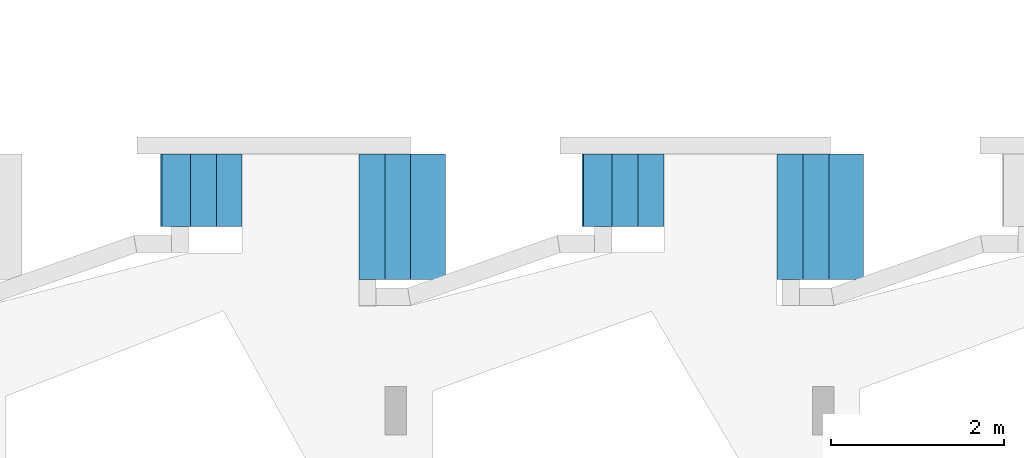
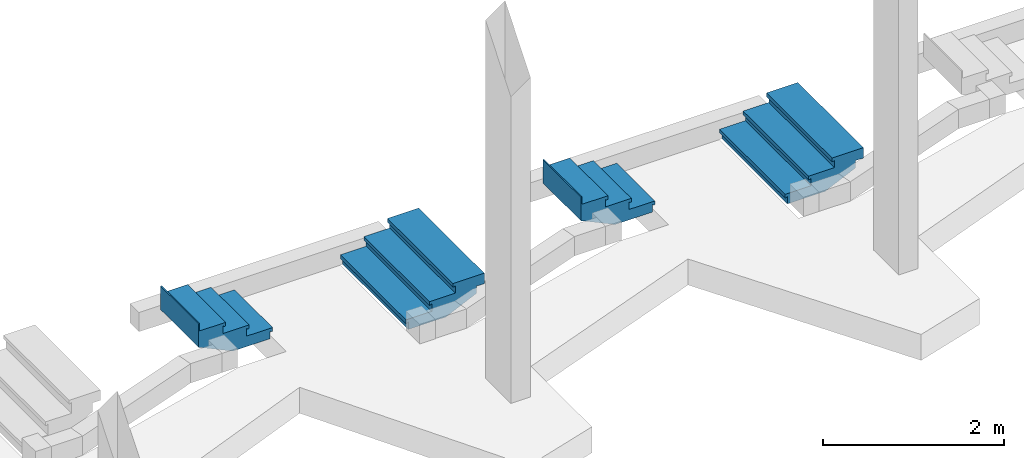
# One storey, part 6 of 8: 4 stair flights, 4 elements without a shape of their own.
"""IFC4 building model written with IfcOpenShell, lengths in metres."""

from ifc_helpers import new_model, entity, si_unit, converted_unit, derived_unit, direction, frame, origin, place, context, subcontext, project, spatial, polygons, material, constituent, constituent_set, type_object, element, aggregate, save


model = new_model("IFC4")

# Units and contexts
model_context = context("Model", 3, precision=1e-05, world=origin(), true_north=direction((6.123031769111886e-17, 1.0)))
body_context = subcontext(model_context, "Body", "Model", "MODEL_VIEW")
ifc_project = project(units=[si_unit("LENGTHUNIT", "METRE"), si_unit("AREAUNIT", "SQUARE_METRE"), si_unit("VOLUMEUNIT", "CUBIC_METRE"), converted_unit("PLANEANGLEUNIT", "DEGREE", entity("IfcRatioMeasure", 0.017453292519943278), si_unit("PLANEANGLEUNIT", "RADIAN"), dimensions=[0, 0, 0, 0, 0, 0, 0]), si_unit("MASSUNIT", "GRAM", prefix="KILO"), derived_unit("MASSDENSITYUNIT", [(si_unit("MASSUNIT", "GRAM", prefix="KILO"), 1), (si_unit("LENGTHUNIT", "METRE"), -3)]), derived_unit("MOMENTOFINERTIAUNIT", [(si_unit("LENGTHUNIT", "METRE"), 4)]), si_unit("TIMEUNIT", "SECOND"), si_unit("FREQUENCYUNIT", "HERTZ"), si_unit("THERMODYNAMICTEMPERATUREUNIT", "DEGREE_CELSIUS"), derived_unit("THERMALTRANSMITTANCEUNIT", [(si_unit("MASSUNIT", "GRAM", prefix="KILO"), 1), (si_unit("THERMODYNAMICTEMPERATUREUNIT", "KELVIN"), -1), (si_unit("TIMEUNIT", "SECOND"), -3)]), derived_unit("VOLUMETRICFLOWRATEUNIT", [(si_unit("LENGTHUNIT", "METRE"), 3), (si_unit("TIMEUNIT", "SECOND"), -1)]), derived_unit("MASSFLOWRATEUNIT", [(si_unit("MASSUNIT", "GRAM", prefix="KILO"), 1), (si_unit("TIMEUNIT", "SECOND"), -1)]), derived_unit("ROTATIONALFREQUENCYUNIT", [(si_unit("TIMEUNIT", "SECOND"), -1)]), si_unit("ELECTRICCURRENTUNIT", "AMPERE"), si_unit("ELECTRICVOLTAGEUNIT", "VOLT"), si_unit("POWERUNIT", "WATT"), si_unit("FORCEUNIT", "NEWTON", prefix="KILO"), si_unit("ILLUMINANCEUNIT", "LUX"), si_unit("LUMINOUSFLUXUNIT", "LUMEN"), si_unit("LUMINOUSINTENSITYUNIT", "CANDELA"), derived_unit("USERDEFINED", [(si_unit("MASSUNIT", "GRAM", prefix="KILO"), -1), (si_unit("LENGTHUNIT", "METRE"), -2), (si_unit("TIMEUNIT", "SECOND"), 3), (si_unit("LUMINOUSFLUXUNIT", "LUMEN"), 1)]), derived_unit("SOUNDPOWERUNIT", [(si_unit("MASSUNIT", "GRAM", prefix="KILO"), 1), (si_unit("LENGTHUNIT", "METRE"), 2), (si_unit("TIMEUNIT", "SECOND"), -3)]), derived_unit("SOUNDPRESSUREUNIT", [(si_unit("MASSUNIT", "GRAM", prefix="KILO"), 1), (si_unit("LENGTHUNIT", "METRE"), -1), (si_unit("TIMEUNIT", "SECOND"), -2)]), derived_unit("LINEARVELOCITYUNIT", [(si_unit("LENGTHUNIT", "METRE"), 1), (si_unit("TIMEUNIT", "SECOND"), -1)]), si_unit("PRESSUREUNIT", "PASCAL"), derived_unit("USERDEFINED", [(si_unit("LENGTHUNIT", "METRE"), -2), (si_unit("MASSUNIT", "GRAM", prefix="KILO"), 1), (si_unit("TIMEUNIT", "SECOND"), -2)]), derived_unit("LINEARFORCEUNIT", [(si_unit("MASSUNIT", "GRAM", prefix="KILO"), 1), (si_unit("LENGTHUNIT", "METRE"), 1), (si_unit("TIMEUNIT", "SECOND"), -2), (si_unit("LENGTHUNIT", "METRE"), -1)]), derived_unit("PLANARFORCEUNIT", [(si_unit("MASSUNIT", "GRAM", prefix="KILO"), 1), (si_unit("LENGTHUNIT", "METRE"), 1), (si_unit("TIMEUNIT", "SECOND"), -2), (si_unit("LENGTHUNIT", "METRE"), -2)])], contexts=[model_context])

# Site, building, storey
site_placement = place(None, origin())
site = spatial("IfcSite", under=ifc_project, at=site_placement, Name="Superficie", CompositionType="ELEMENT")
building_placement = place(site_placement, origin())
building = spatial("IfcBuilding", under=site, at=building_placement, CompositionType="ELEMENT")
storey_placement = place(building_placement, frame((0.0, 0.0, -0.5599999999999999)))
storey = spatial("IfcBuildingStorey", under=building, at=storey_placement, Name="Nivel -1", CompositionType="ELEMENT", Elevation=-0.5599999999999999)

# Stair, stair flight
stair_type_1 = type_object("IfcStairType", Name="Escalera prefabricada:Escalera prefabricada", PredefinedType="STRAIGHT_RUN_STAIR")
stair_1_placement = place(storey_placement, origin())
stair_1 = element("IfcStair", 1, at=stair_1_placement, inside=storey, type_object=stair_type_1, Name="Escalera prefabricada:Escalera", ObjectType="Escalera prefabricada:Escalera prefabricada", PredefinedType="STRAIGHT_RUN_STAIR")
ifc_material_1 = material(Name="Cerámica blanca", Category="Cerámica")
ifc_constituent_1 = constituent(ifc_material_1, Name="Cerámica blanca", Category="Cerámica")
ifc_material_2 = material(Name="Hormigón", Category="Hormigón")
ifc_constituent_2 = constituent(ifc_material_2, Name="Hormigón", Category="Hormigón")
ifc_constituent_set_1 = constituent_set(constituents=[ifc_constituent_1, ifc_constituent_2], Name="MaterialConstituentSet")
stair_flight_type_1 = type_object("IfcStairFlightType", Name="Tramo monolítico:Huella 40 mm Mamperlán 30 mm Contrahuella 15 mm", PredefinedType="STRAIGHT")
stair_flight_1_placement = place(stair_1_placement, frame((-6.508314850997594, -7.28417071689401, 0.0)))
stair_flight_1 = element("IfcStairFlight", 2, at=stair_flight_1_placement, type_object=stair_flight_type_1, material=ifc_constituent_set_1, Name="Escalera prefabricada:Escalera:175658 Run 1", ObjectType="Tramo monolítico:Huella 40 mm Mamperlán 30 mm Contrahuella 15 mm", PredefinedType="STRAIGHT", context=body_context, shape_type="Tessellation", body=[
    polygons([(0.9450000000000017, 0.8399999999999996, 0.08999999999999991), (0.9450000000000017, 0.8399999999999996, 0.13999999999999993), (0.9450000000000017, 0.0, 0.13999999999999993), (0.9450000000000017, 0.0, 0.08999999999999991), (0.9220000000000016, 0.8399999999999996, 0.08999999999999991), (0.9220000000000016, 0.0, 0.08999999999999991), (0.9220000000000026, 0.8399999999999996, 0.1), (0.9220000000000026, 0.0, 0.1), (0.6000000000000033, 0.8400000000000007, 0.13999999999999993), (0.6000000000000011, 1.0828671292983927e-15, 0.13999999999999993), (0.6000000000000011, 1.0828671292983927e-15, 0.1), (0.6000000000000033, 0.8400000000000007, 0.1)], [[[1, 2, 3, 4]], [[5, 1, 4, 6]], [[7, 5, 6, 8]], [[3, 2, 9, 10]], [[11, 12, 7, 8]], [[3, 10, 11, 8, 6, 4]], [[9, 2, 1, 5, 7, 12]], [[10, 9, 12, 11]]], closed=True),
    polygons([(0.915000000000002, 0.8399999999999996, 0.1), (0.915000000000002, 0.8399999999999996, 0.0), (0.9000000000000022, 0.8399999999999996, 0.0), (0.9000000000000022, 0.8399999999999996, 0.1), (0.915000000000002, 0.0, 0.1), (0.9000000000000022, 0.0, 0.1), (0.9000000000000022, 0.0, 0.0), (0.915000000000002, 0.0, 0.0)], [[[1, 2, 3, 4]], [[5, 6, 7, 8]], [[2, 1, 5, 8]], [[3, 2, 8, 7]], [[4, 3, 7, 6]], [[1, 4, 6, 5]]], closed=True),
    polygons([(0.6150000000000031, 0.8400000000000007, 0.24), (0.6150000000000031, 0.8400000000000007, 0.13999999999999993), (0.6000000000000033, 0.8400000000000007, 0.13999999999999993), (0.6000000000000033, 0.8400000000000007, 0.24), (0.6149999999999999, 1.0828671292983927e-15, 0.24), (0.6000000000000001, 1.0828671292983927e-15, 0.24), (0.6000000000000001, 1.0828671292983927e-15, 0.13999999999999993), (0.6149999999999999, 1.0828671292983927e-15, 0.13999999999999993)], [[[1, 2, 3, 4]], [[5, 6, 7, 8]], [[2, 1, 5, 8]], [[3, 2, 8, 7]], [[4, 3, 7, 6]], [[1, 4, 6, 5]]], closed=True),
    polygons([(0.6449999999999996, 1.0828671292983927e-15, 0.27999999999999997), (0.6450000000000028, 0.8400000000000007, 0.27999999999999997), (0.30000000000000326, 0.8400000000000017, 0.28), (0.3000000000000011, 1.0828671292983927e-15, 0.28), (0.3000000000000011, 1.0828671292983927e-15, 0.24), (0.30000000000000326, 0.8400000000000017, 0.24), (0.6220000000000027, 0.8400000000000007, 0.24), (0.6220000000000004, 1.0828671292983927e-15, 0.24), (0.6219999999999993, 1.0828671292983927e-15, 0.22999999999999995), (0.6449999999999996, 1.0828671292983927e-15, 0.22999999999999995), (0.6450000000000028, 0.8400000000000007, 0.22999999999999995), (0.6220000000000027, 0.8400000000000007, 0.22999999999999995)], [[[1, 2, 3, 4]], [[5, 6, 7, 8]], [[1, 4, 5, 8, 9, 10]], [[3, 2, 11, 12, 7, 6]], [[4, 3, 6, 5]], [[11, 2, 1, 10]], [[12, 11, 10, 9]], [[7, 12, 9, 8]]], closed=True),
    polygons([(0.3150000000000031, 0.8400000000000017, 0.37999999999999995), (0.3150000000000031, 0.8400000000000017, 0.27999999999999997), (0.30000000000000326, 0.8400000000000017, 0.27999999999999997), (0.30000000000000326, 0.8400000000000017, 0.37999999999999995), (0.31499999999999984, 1.0828671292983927e-15, 0.37999999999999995), (0.30000000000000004, 1.0828671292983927e-15, 0.37999999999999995), (0.30000000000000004, 1.0828671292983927e-15, 0.27999999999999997), (0.31499999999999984, 1.0828671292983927e-15, 0.27999999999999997)], [[[1, 2, 3, 4]], [[5, 6, 7, 8]], [[2, 1, 5, 8]], [[3, 2, 8, 7]], [[4, 3, 7, 6]], [[1, 4, 6, 5]]], closed=True),
    polygons([(0.015000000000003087, 0.8400000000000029, 0.5199999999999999), (0.015000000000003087, 0.8400000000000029, 0.41999999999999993), (3.2486013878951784e-15, 0.8400000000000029, 0.41999999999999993), (3.2486013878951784e-15, 0.8400000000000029, 0.5199999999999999), (0.014999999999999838, 3.2486013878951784e-15, 0.5199999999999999), (0.0, 3.2486013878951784e-15, 0.5199999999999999), (0.0, 3.2486013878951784e-15, 0.41999999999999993), (0.014999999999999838, 3.2486013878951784e-15, 0.41999999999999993)], [[[1, 2, 3, 4]], [[5, 6, 7, 8]], [[2, 1, 5, 8]], [[3, 2, 8, 7]], [[4, 3, 7, 6]], [[1, 4, 6, 5]]], closed=True),
    polygons([(0.34499999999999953, 1.0828671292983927e-15, 0.41999999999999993), (0.3450000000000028, 0.8400000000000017, 0.41999999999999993), (3.2486013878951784e-15, 0.8400000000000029, 0.42000000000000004), (1.0828671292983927e-15, 3.2486013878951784e-15, 0.42000000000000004), (1.0828671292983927e-15, 3.2486013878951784e-15, 0.37999999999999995), (3.2486013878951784e-15, 0.8400000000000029, 0.37999999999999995), (0.32200000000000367, 0.8400000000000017, 0.37999999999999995), (0.32200000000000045, 1.0828671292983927e-15, 0.37999999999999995), (0.32199999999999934, 1.0828671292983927e-15, 0.36999999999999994), (0.34499999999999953, 1.0828671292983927e-15, 0.36999999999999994), (0.3450000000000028, 0.8400000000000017, 0.36999999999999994), (0.3220000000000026, 0.8400000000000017, 0.36999999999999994)], [[[1, 2, 3, 4]], [[5, 6, 7, 8]], [[1, 4, 5, 8, 9, 10]], [[3, 2, 11, 12, 7, 6]], [[4, 3, 6, 5]], [[11, 2, 1, 10]], [[12, 11, 10, 9]], [[7, 12, 9, 8]]], closed=True),
    polygons([(0.6000000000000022, 1.0828671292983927e-15, 0.1), (0.9000000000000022, 0.0, 0.1), (0.9000000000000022, 0.8399999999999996, 0.1), (0.6000000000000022, 0.8400000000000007, 0.1), (0.6000000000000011, 1.0828671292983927e-15, 0.0), (0.9000000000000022, 0.0, 0.0), (0.9000000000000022, 0.8399999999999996, 0.0), (0.6000000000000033, 0.8400000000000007, 0.0), (0.3000000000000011, 2.1657342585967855e-15, 0.24), (0.6000000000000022, 1.0828671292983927e-15, 0.24), (0.6000000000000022, 0.8400000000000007, 0.24), (0.30000000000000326, 0.8400000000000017, 0.24), (0.3000000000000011, 1.0828671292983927e-15, 0.06343524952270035), (0.4359326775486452, 1.0828671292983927e-15, 0.0), (0.43593267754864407, 0.8400000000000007, 0.0), (0.30000000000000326, 0.8400000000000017, 0.06343524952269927), (0.0, 3.2486013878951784e-15, 0.20343524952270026), (3.2486013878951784e-15, 0.8400000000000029, 0.20343524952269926), (1.0828671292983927e-15, 3.2486013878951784e-15, 0.37999999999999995), (0.3000000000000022, 1.0828671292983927e-15, 0.37999999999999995), (0.3000000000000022, 0.8400000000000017, 0.37999999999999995), (3.2486013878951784e-15, 0.8400000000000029, 0.37999999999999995)], [[[1, 2, 3, 4]], [[2, 1, 5, 6]], [[3, 2, 6, 7]], [[4, 3, 7, 8]], [[9, 10, 11, 12]], [[5, 1, 10, 9, 13, 14]], [[1, 4, 11, 10]], [[4, 8, 15, 16, 12, 11]], [[6, 5, 14, 15, 8, 7]], [[15, 14, 13, 17, 18, 16]], [[19, 20, 21, 22]], [[20, 19, 17, 13, 9]], [[9, 12, 21, 20]], [[22, 21, 12, 16, 18]], [[19, 22, 18, 17]]], closed=True),
])
aggregate(stair_1, [stair_flight_1])

stair_type_2 = type_object("IfcStairType", Name="Escalera prefabricada:Escalera prefabricada", PredefinedType="STRAIGHT_RUN_STAIR")
stair_2_placement = place(storey_placement, origin())
stair_2 = element("IfcStair", 3, at=stair_2_placement, inside=storey, type_object=stair_type_2, Name="Escalera prefabricada:Escalera", ObjectType="Escalera prefabricada:Escalera prefabricada", PredefinedType="STRAIGHT_RUN_STAIR")
ifc_constituent_3 = constituent(ifc_material_1, Name="Cerámica blanca", Category="Cerámica")
ifc_constituent_4 = constituent(ifc_material_2, Name="Hormigón", Category="Hormigón")
ifc_constituent_set_2 = constituent_set(constituents=[ifc_constituent_3, ifc_constituent_4], Name="MaterialConstituentSet")
stair_flight_type_2 = type_object("IfcStairFlightType", Name="Tramo monolítico:Huella 40 mm Mamperlán 30 mm Contrahuella 15 mm", PredefinedType="STRAIGHT")
stair_flight_2_placement = place(stair_2_placement, frame((-1.6284287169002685, -7.284170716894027, 0.0)))
stair_flight_2 = element("IfcStairFlight", 4, at=stair_flight_2_placement, type_object=stair_flight_type_2, material=ifc_constituent_set_2, Name="Escalera prefabricada:Escalera:175675 Run 1", ObjectType="Tramo monolítico:Huella 40 mm Mamperlán 30 mm Contrahuella 15 mm", PredefinedType="STRAIGHT", context=body_context, shape_type="Tessellation", body=[
    polygons([(0.9450000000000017, 0.8400000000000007, 0.08999999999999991), (0.9450000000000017, 0.8400000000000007, 0.13999999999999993), (0.9450000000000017, 1.0828671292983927e-15, 0.13999999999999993), (0.9450000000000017, 1.0828671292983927e-15, 0.08999999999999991), (0.9220000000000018, 0.8400000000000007, 0.08999999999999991), (0.9220000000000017, 1.0828671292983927e-15, 0.08999999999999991), (0.9220000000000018, 0.8400000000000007, 0.1), (0.9220000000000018, 1.0828671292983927e-15, 0.1), (0.6000000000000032, 0.8400000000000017, 0.13999999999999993), (0.6000000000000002, 1.0828671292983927e-15, 0.13999999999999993), (0.6000000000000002, 1.0828671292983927e-15, 0.1), (0.6000000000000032, 0.8400000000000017, 0.1)], [[[1, 2, 3, 4]], [[5, 1, 4, 6]], [[7, 5, 6, 8]], [[3, 2, 9, 10]], [[11, 12, 7, 8]], [[3, 10, 11, 8, 6, 4]], [[9, 2, 1, 5, 7, 12]], [[10, 9, 12, 11]]], closed=True),
    polygons([(0.9150000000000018, 0.8400000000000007, 0.1), (0.9150000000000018, 0.8400000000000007, 0.0), (0.9000000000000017, 0.8400000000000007, 0.0), (0.9000000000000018, 0.8400000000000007, 0.1), (0.9150000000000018, 1.0828671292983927e-15, 0.1), (0.9000000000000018, 1.0828671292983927e-15, 0.1), (0.9000000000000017, 1.0828671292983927e-15, 0.0), (0.9150000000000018, 1.0828671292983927e-15, 0.0)], [[[1, 2, 3, 4]], [[5, 6, 7, 8]], [[2, 1, 5, 8]], [[3, 2, 8, 7]], [[4, 3, 7, 6]], [[1, 4, 6, 5]]], closed=True),
    polygons([(0.6150000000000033, 0.8400000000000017, 0.24), (0.615000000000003, 0.8400000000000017, 0.13999999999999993), (0.6000000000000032, 0.8400000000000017, 0.13999999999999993), (0.6000000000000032, 0.8400000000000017, 0.24), (0.6150000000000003, 1.0828671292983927e-15, 0.24), (0.6000000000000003, 1.0828671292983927e-15, 0.24), (0.6000000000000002, 1.0828671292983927e-15, 0.13999999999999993), (0.6150000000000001, 1.0828671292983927e-15, 0.13999999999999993)], [[[1, 2, 3, 4]], [[5, 6, 7, 8]], [[2, 1, 5, 8]], [[3, 2, 8, 7]], [[4, 3, 7, 6]], [[1, 4, 6, 5]]], closed=True),
    polygons([(0.6450000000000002, 1.0828671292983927e-15, 0.27999999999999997), (0.6450000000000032, 0.8400000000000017, 0.27999999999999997), (0.30000000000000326, 0.8400000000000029, 0.28), (0.3000000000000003, 3.2486013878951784e-15, 0.28), (0.3000000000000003, 3.2486013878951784e-15, 0.24), (0.30000000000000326, 0.8400000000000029, 0.24), (0.6220000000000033, 0.8400000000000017, 0.24), (0.6220000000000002, 1.0828671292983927e-15, 0.24), (0.6220000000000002, 1.0828671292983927e-15, 0.22999999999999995), (0.6450000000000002, 1.0828671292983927e-15, 0.22999999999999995), (0.6450000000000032, 0.8400000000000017, 0.22999999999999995), (0.6220000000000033, 0.8400000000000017, 0.22999999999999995)], [[[1, 2, 3, 4]], [[5, 6, 7, 8]], [[1, 4, 5, 8, 9, 10]], [[3, 2, 11, 12, 7, 6]], [[4, 3, 6, 5]], [[11, 2, 1, 10]], [[12, 11, 10, 9]], [[7, 12, 9, 8]]], closed=True),
    polygons([(0.3150000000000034, 0.8400000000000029, 0.37999999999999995), (0.3150000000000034, 0.8400000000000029, 0.27999999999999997), (0.30000000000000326, 0.8400000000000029, 0.27999999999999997), (0.30000000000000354, 0.8400000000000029, 0.37999999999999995), (0.3150000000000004, 3.2486013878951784e-15, 0.37999999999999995), (0.3000000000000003, 3.2486013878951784e-15, 0.37999999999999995), (0.3000000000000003, 3.2486013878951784e-15, 0.27999999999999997), (0.3150000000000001, 3.2486013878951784e-15, 0.27999999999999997)], [[[1, 2, 3, 4]], [[5, 6, 7, 8]], [[2, 1, 5, 8]], [[3, 2, 8, 7]], [[4, 3, 7, 6]], [[1, 4, 6, 5]]], closed=True),
    polygons([(0.015000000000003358, 0.840000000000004, 0.5199999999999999), (0.015000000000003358, 0.840000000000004, 0.41999999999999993), (3.2486013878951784e-15, 0.840000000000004, 0.41999999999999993), (3.2486013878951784e-15, 0.840000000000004, 0.5199999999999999), (0.01500000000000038, 4.331468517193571e-15, 0.5199999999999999), (2.707167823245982e-16, 4.331468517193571e-15, 0.5199999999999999), (2.707167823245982e-16, 4.331468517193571e-15, 0.41999999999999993), (0.01500000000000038, 4.331468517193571e-15, 0.41999999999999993)], [[[1, 2, 3, 4]], [[5, 6, 7, 8]], [[2, 1, 5, 8]], [[3, 2, 8, 7]], [[4, 3, 7, 6]], [[1, 4, 6, 5]]], closed=True),
    polygons([(0.34500000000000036, 3.2486013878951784e-15, 0.41999999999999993), (0.3450000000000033, 0.8400000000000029, 0.41999999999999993), (3.2486013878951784e-15, 0.840000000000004, 0.42000000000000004), (2.707167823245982e-16, 4.331468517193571e-15, 0.42000000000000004), (2.707167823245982e-16, 4.331468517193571e-15, 0.37999999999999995), (3.2486013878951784e-15, 0.840000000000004, 0.37999999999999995), (0.3220000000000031, 0.8400000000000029, 0.37999999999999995), (0.3220000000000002, 3.2486013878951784e-15, 0.37999999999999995), (0.3220000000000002, 3.2486013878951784e-15, 0.36999999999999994), (0.34500000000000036, 3.2486013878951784e-15, 0.36999999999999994), (0.3450000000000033, 0.8400000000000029, 0.36999999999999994), (0.3220000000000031, 0.8400000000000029, 0.36999999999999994)], [[[1, 2, 3, 4]], [[5, 6, 7, 8]], [[1, 4, 5, 8, 9, 10]], [[3, 2, 11, 12, 7, 6]], [[4, 3, 6, 5]], [[11, 2, 1, 10]], [[12, 11, 10, 9]], [[7, 12, 9, 8]]], closed=True),
    polygons([(0.600000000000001, 2.1657342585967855e-15, 0.1), (0.9000000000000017, 1.0828671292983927e-15, 0.1), (0.9000000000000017, 0.8400000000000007, 0.1), (0.6000000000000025, 0.8400000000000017, 0.1), (0.6000000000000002, 1.0828671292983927e-15, 0.0), (0.9000000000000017, 1.0828671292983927e-15, 0.0), (0.9000000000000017, 0.8400000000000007, 0.0), (0.6000000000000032, 0.8400000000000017, 0.0), (0.3000000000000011, 3.2486013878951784e-15, 0.24), (0.6000000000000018, 1.0828671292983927e-15, 0.24), (0.6000000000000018, 0.8400000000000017, 0.24), (0.3000000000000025, 0.8400000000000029, 0.24), (0.3000000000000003, 3.2486013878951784e-15, 0.06343524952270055), (0.43593267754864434, 3.2486013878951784e-15, 0.0), (0.43593267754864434, 0.8400000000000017, 0.0), (0.30000000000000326, 0.8400000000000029, 0.06343524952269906), (2.707167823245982e-16, 4.331468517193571e-15, 0.2034352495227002), (3.2486013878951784e-15, 0.840000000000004, 0.20343524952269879), (2.707167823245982e-16, 4.331468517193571e-15, 0.37999999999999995), (0.30000000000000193, 3.2486013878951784e-15, 0.37999999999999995), (0.30000000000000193, 0.8400000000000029, 0.37999999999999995), (3.2486013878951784e-15, 0.840000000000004, 0.37999999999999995)], [[[1, 2, 3, 4]], [[2, 1, 5, 6]], [[3, 2, 6, 7]], [[4, 3, 7, 8]], [[9, 10, 11, 12]], [[5, 1, 10, 9, 13, 14]], [[1, 4, 11, 10]], [[4, 8, 15, 16, 12, 11]], [[6, 5, 14, 15, 8, 7]], [[15, 14, 13, 17, 18, 16]], [[19, 20, 21, 22]], [[20, 19, 17, 13, 9]], [[9, 12, 21, 20]], [[22, 21, 12, 16, 18]], [[19, 22, 18, 17]]], closed=True),
])
aggregate(stair_2, [stair_flight_2])

stair_type_3 = type_object("IfcStairType", Name="Escalera prefabricada:Escalera prefabricada", PredefinedType="STRAIGHT_RUN_STAIR")
stair_3_placement = place(storey_placement, origin())
stair_3 = element("IfcStair", 5, at=stair_3_placement, inside=storey, type_object=stair_type_3, Name="Escalera prefabricada:Escalera", ObjectType="Escalera prefabricada:Escalera prefabricada", PredefinedType="STRAIGHT_RUN_STAIR")
ifc_constituent_5 = constituent(ifc_material_1, Name="Cerámica blanca", Category="Cerámica")
ifc_constituent_6 = constituent(ifc_material_2, Name="Hormigón", Category="Hormigón")
ifc_constituent_set_3 = constituent_set(constituents=[ifc_constituent_5, ifc_constituent_6], Name="MaterialConstituentSet")
stair_flight_type_3 = type_object("IfcStairFlightType", Name="Tramo monolítico:Huella 40 mm Mamperlán 30 mm Contrahuella 15 mm", PredefinedType="STRAIGHT")
stair_flight_3_placement = place(stair_3_placement, frame((-4.2132009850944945, -7.894170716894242, 0.0)))
stair_flight_3 = element("IfcStairFlight", 6, at=stair_flight_3_placement, type_object=stair_flight_type_3, material=ifc_constituent_set_3, Name="Escalera prefabricada:Escalera:176115 Run 1", ObjectType="Tramo monolítico:Huella 40 mm Mamperlán 30 mm Contrahuella 15 mm", PredefinedType="STRAIGHT", context=body_context, shape_type="Tessellation", body=[
    polygons([(0.0, 5.4143356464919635e-15, 0.08999999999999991), (0.0, 5.4143356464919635e-15, 0.13999999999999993), (0.0, 1.450000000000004, 0.13999999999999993), (0.0, 1.450000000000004, 0.08999999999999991), (0.022999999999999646, 5.4143356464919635e-15, 0.08999999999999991), (0.022999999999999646, 1.450000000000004, 0.08999999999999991), (0.022999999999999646, 5.4143356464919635e-15, 0.1), (0.022999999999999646, 1.450000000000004, 0.1), (0.34499999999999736, 3.2486013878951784e-15, 0.13999999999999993), (0.3450000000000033, 1.4500000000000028, 0.13999999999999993), (0.3450000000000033, 1.4500000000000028, 0.1), (0.34499999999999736, 3.2486013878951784e-15, 0.1)], [[[1, 2, 3, 4]], [[5, 1, 4, 6]], [[7, 5, 6, 8]], [[3, 2, 9, 10]], [[11, 12, 7, 8]], [[3, 10, 11, 8, 6, 4]], [[9, 2, 1, 5, 7, 12]], [[10, 9, 12, 11]]], closed=True),
    polygons([(0.029999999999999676, 5.4143356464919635e-15, 0.1), (0.029999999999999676, 5.4143356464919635e-15, 0.0), (0.04499999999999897, 5.4143356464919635e-15, 0.0), (0.04499999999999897, 5.4143356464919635e-15, 0.1), (0.029999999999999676, 1.450000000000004, 0.1), (0.04499999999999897, 1.450000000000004, 0.1), (0.04499999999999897, 1.450000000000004, 0.0), (0.029999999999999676, 1.450000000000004, 0.0)], [[[1, 2, 3, 4]], [[5, 6, 7, 8]], [[2, 1, 5, 8]], [[3, 2, 8, 7]], [[4, 3, 7, 6]], [[1, 4, 6, 5]]], closed=True),
    polygons([(0.329999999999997, 3.2486013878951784e-15, 0.24), (0.329999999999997, 3.2486013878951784e-15, 0.13999999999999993), (0.3449999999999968, 3.2486013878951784e-15, 0.13999999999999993), (0.3449999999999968, 3.2486013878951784e-15, 0.24), (0.3300000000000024, 1.4500000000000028, 0.24), (0.34500000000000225, 1.4500000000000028, 0.24), (0.34500000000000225, 1.4500000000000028, 0.13999999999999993), (0.3300000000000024, 1.4500000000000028, 0.13999999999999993)], [[[1, 2, 3, 4]], [[5, 6, 7, 8]], [[2, 1, 5, 8]], [[3, 2, 8, 7]], [[4, 3, 7, 6]], [[1, 4, 6, 5]]], closed=True),
    polygons([(0.3000000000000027, 1.4500000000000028, 0.27999999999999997), (0.2999999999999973, 3.2486013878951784e-15, 0.27999999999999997), (0.6449999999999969, 2.1657342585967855e-15, 0.28), (0.6450000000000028, 1.4500000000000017, 0.28), (0.6450000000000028, 1.4500000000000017, 0.24), (0.6449999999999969, 2.1657342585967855e-15, 0.24), (0.3229999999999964, 3.2486013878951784e-15, 0.24), (0.3230000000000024, 1.4500000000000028, 0.24), (0.3230000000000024, 1.4500000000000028, 0.22999999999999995), (0.3000000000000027, 1.4500000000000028, 0.22999999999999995), (0.2999999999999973, 3.2486013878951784e-15, 0.22999999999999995), (0.3229999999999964, 3.2486013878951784e-15, 0.22999999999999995)], [[[1, 2, 3, 4]], [[5, 6, 7, 8]], [[1, 4, 5, 8, 9, 10]], [[3, 2, 11, 12, 7, 6]], [[4, 3, 6, 5]], [[11, 2, 1, 10]], [[12, 11, 10, 9]], [[7, 12, 9, 8]]], closed=True),
    polygons([(0.629999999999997, 2.1657342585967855e-15, 0.37999999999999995), (0.629999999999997, 2.1657342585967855e-15, 0.27999999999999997), (0.6449999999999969, 2.1657342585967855e-15, 0.27999999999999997), (0.6449999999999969, 2.1657342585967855e-15, 0.37999999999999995), (0.6300000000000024, 1.4500000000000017, 0.37999999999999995), (0.6450000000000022, 1.4500000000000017, 0.37999999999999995), (0.6450000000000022, 1.4500000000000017, 0.27999999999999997), (0.6300000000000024, 1.4500000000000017, 0.27999999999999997)], [[[1, 2, 3, 4]], [[5, 6, 7, 8]], [[2, 1, 5, 8]], [[3, 2, 8, 7]], [[4, 3, 7, 6]], [[1, 4, 6, 5]]], closed=True),
    polygons([(0.6000000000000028, 1.4500000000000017, 0.41999999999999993), (0.5999999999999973, 2.1657342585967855e-15, 0.41999999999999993), (0.9999999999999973, 1.0828671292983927e-15, 0.42000000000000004), (1.0000000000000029, 1.4500000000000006, 0.42000000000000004), (1.0000000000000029, 1.4500000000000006, 0.37999999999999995), (0.9999999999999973, 1.0828671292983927e-15, 0.37999999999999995), (0.622999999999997, 2.1657342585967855e-15, 0.37999999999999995), (0.6230000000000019, 1.4500000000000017, 0.37999999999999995), (0.6230000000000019, 1.4500000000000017, 0.36999999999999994), (0.6000000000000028, 1.4500000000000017, 0.36999999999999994), (0.5999999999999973, 2.1657342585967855e-15, 0.36999999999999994), (0.622999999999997, 2.1657342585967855e-15, 0.36999999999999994)], [[[1, 2, 3, 4]], [[5, 6, 7, 8]], [[1, 4, 5, 8, 9, 10]], [[3, 2, 11, 12, 7, 6]], [[4, 3, 6, 5]], [[11, 2, 1, 10]], [[12, 11, 10, 9]], [[7, 12, 9, 8]]], closed=True),
    polygons([(0.34500000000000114, 1.4500000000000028, 0.1), (0.04500000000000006, 1.450000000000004, 0.1), (0.04500000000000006, 5.4143356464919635e-15, 0.1), (0.3449999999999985, 3.2486013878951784e-15, 0.1), (0.3450000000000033, 1.4500000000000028, 0.0), (0.04500000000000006, 1.450000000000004, 0.0), (0.04500000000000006, 5.4143356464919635e-15, 0.0), (0.34499999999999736, 3.2486013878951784e-15, 0.0), (0.5090673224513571, 1.4500000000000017, 0.0), (0.5090673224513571, 2.1657342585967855e-15, 0.0), (0.6450000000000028, 1.4500000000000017, 0.0634352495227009), (0.9000000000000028, 1.4500000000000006, 0.18243524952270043), (0.8999999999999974, 1.0828671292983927e-15, 0.18243524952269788), (0.6449999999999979, 2.1657342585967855e-15, 0.06343524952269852), (0.9999999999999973, 1.0828671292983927e-15, 0.2799999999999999), (0.8999999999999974, 1.0828671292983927e-15, 0.2799999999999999), (0.9000000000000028, 1.4500000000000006, 0.2799999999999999), (1.0000000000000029, 1.4500000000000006, 0.2799999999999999), (1.0000000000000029, 1.4500000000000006, 0.37999999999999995), (0.9999999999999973, 1.0828671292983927e-15, 0.37999999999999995), (0.6450000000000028, 1.4500000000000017, 0.24), (0.3450000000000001, 1.4500000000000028, 0.24), (0.3450000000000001, 3.2486013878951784e-15, 0.24), (0.6449999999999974, 2.1657342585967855e-15, 0.24), (0.6450000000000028, 1.4500000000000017, 0.37999999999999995), (0.6449999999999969, 2.1657342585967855e-15, 0.37999999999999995)], [[[1, 2, 3, 4]], [[2, 1, 5, 6]], [[3, 2, 6, 7]], [[4, 3, 7, 8]], [[6, 5, 9, 10, 8, 7]], [[10, 9, 11, 12, 13, 14]], [[15, 16, 17, 18]], [[15, 18, 19, 20]], [[21, 22, 23, 24]], [[5, 1, 22, 21, 11, 9]], [[1, 4, 23, 22]], [[4, 8, 10, 14, 24, 23]], [[25, 26, 20, 19]], [[25, 19, 18, 17, 12, 11, 21]], [[21, 24, 26, 25]], [[20, 26, 24, 14, 13, 16, 15]], [[13, 12, 17, 16]]], closed=True),
])
aggregate(stair_3, [stair_flight_3])

stair_type_4 = type_object("IfcStairType", Name="Escalera prefabricada:Escalera prefabricada", PredefinedType="STRAIGHT_RUN_STAIR")
stair_4_placement = place(storey_placement, origin())
stair_4 = element("IfcStair", 7, at=stair_4_placement, inside=storey, type_object=stair_type_4, Name="Escalera prefabricada:Escalera", ObjectType="Escalera prefabricada:Escalera prefabricada", PredefinedType="STRAIGHT_RUN_STAIR")
ifc_constituent_7 = constituent(ifc_material_1, Name="Cerámica blanca", Category="Cerámica")
ifc_constituent_8 = constituent(ifc_material_2, Name="Hormigón", Category="Hormigón")
ifc_constituent_set_4 = constituent_set(constituents=[ifc_constituent_7, ifc_constituent_8], Name="MaterialConstituentSet")
stair_flight_type_4 = type_object("IfcStairFlightType", Name="Tramo monolítico:Huella 40 mm Mamperlán 30 mm Contrahuella 15 mm", PredefinedType="STRAIGHT")
stair_flight_4_placement = place(stair_4_placement, frame((0.6267990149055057, -7.894170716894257, 0.0)))
stair_flight_4 = element("IfcStairFlight", 8, at=stair_flight_4_placement, type_object=stair_flight_type_4, material=ifc_constituent_set_4, Name="Escalera prefabricada:Escalera:176131 Run 1", ObjectType="Tramo monolítico:Huella 40 mm Mamperlán 30 mm Contrahuella 15 mm", PredefinedType="STRAIGHT", context=body_context, shape_type="Tessellation", body=[
    polygons([(0.0, 3.2486013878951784e-15, 0.08999999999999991), (0.0, 3.2486013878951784e-15, 0.13999999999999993), (0.0, 1.4500000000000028, 0.13999999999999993), (0.0, 1.4500000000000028, 0.08999999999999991), (0.02300000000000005, 3.2486013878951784e-15, 0.08999999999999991), (0.02300000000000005, 1.4500000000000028, 0.08999999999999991), (0.022999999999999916, 3.2486013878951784e-15, 0.1), (0.02300000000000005, 1.4500000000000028, 0.1), (0.34499999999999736, 3.2486013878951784e-15, 0.13999999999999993), (0.3450000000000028, 1.4500000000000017, 0.13999999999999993), (0.3450000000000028, 1.4500000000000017, 0.1), (0.34499999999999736, 3.2486013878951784e-15, 0.1)], [[[1, 2, 3, 4]], [[5, 1, 4, 6]], [[7, 5, 6, 8]], [[3, 2, 9, 10]], [[11, 12, 7, 8]], [[3, 10, 11, 8, 6, 4]], [[9, 2, 1, 5, 7, 12]], [[10, 9, 12, 11]]], closed=True),
    polygons([(0.029999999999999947, 3.2486013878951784e-15, 0.1), (0.030000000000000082, 3.2486013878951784e-15, 0.0), (0.04500000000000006, 3.2486013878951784e-15, 0.0), (0.04500000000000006, 3.2486013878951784e-15, 0.1), (0.029999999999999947, 1.4500000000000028, 0.1), (0.04500000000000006, 1.4500000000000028, 0.1), (0.04500000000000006, 1.4500000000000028, 0.0), (0.030000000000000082, 1.4500000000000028, 0.0)], [[[1, 2, 3, 4]], [[5, 6, 7, 8]], [[2, 1, 5, 8]], [[3, 2, 8, 7]], [[4, 3, 7, 6]], [[1, 4, 6, 5]]], closed=True),
    polygons([(0.3299999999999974, 3.2486013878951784e-15, 0.24), (0.3299999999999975, 3.2486013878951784e-15, 0.13999999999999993), (0.34499999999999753, 3.2486013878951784e-15, 0.13999999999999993), (0.34499999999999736, 3.2486013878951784e-15, 0.24), (0.3300000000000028, 1.4500000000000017, 0.24), (0.3450000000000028, 1.4500000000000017, 0.24), (0.3450000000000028, 1.4500000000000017, 0.13999999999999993), (0.3300000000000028, 1.4500000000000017, 0.13999999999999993)], [[[1, 2, 3, 4]], [[5, 6, 7, 8]], [[2, 1, 5, 8]], [[3, 2, 8, 7]], [[4, 3, 7, 6]], [[1, 4, 6, 5]]], closed=True),
    polygons([(0.3000000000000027, 1.4500000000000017, 0.27999999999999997), (0.2999999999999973, 3.2486013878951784e-15, 0.27999999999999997), (0.6449999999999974, 1.0828671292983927e-15, 0.28), (0.6450000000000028, 1.4500000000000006, 0.28), (0.6450000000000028, 1.4500000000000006, 0.24), (0.6449999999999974, 1.0828671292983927e-15, 0.24), (0.3229999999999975, 3.2486013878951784e-15, 0.24), (0.3230000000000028, 1.4500000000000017, 0.24), (0.3230000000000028, 1.4500000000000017, 0.22999999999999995), (0.3000000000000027, 1.4500000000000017, 0.22999999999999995), (0.2999999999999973, 3.2486013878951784e-15, 0.22999999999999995), (0.32299999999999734, 3.2486013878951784e-15, 0.22999999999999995)], [[[1, 2, 3, 4]], [[5, 6, 7, 8]], [[1, 4, 5, 8, 9, 10]], [[3, 2, 11, 12, 7, 6]], [[4, 3, 6, 5]], [[11, 2, 1, 10]], [[12, 11, 10, 9]], [[7, 12, 9, 8]]], closed=True),
    polygons([(0.6299999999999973, 1.0828671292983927e-15, 0.37999999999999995), (0.6299999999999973, 1.0828671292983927e-15, 0.27999999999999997), (0.6449999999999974, 1.0828671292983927e-15, 0.27999999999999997), (0.6449999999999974, 1.0828671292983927e-15, 0.37999999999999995), (0.6300000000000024, 1.4500000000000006, 0.37999999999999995), (0.6450000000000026, 1.4500000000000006, 0.37999999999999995), (0.6450000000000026, 1.4500000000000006, 0.27999999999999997), (0.6300000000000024, 1.4500000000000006, 0.27999999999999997)], [[[1, 2, 3, 4]], [[5, 6, 7, 8]], [[2, 1, 5, 8]], [[3, 2, 8, 7]], [[4, 3, 7, 6]], [[1, 4, 6, 5]]], closed=True),
    polygons([(0.6000000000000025, 1.4500000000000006, 0.41999999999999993), (0.5999999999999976, 1.0828671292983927e-15, 0.41999999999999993), (0.9999999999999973, 0.0, 0.42000000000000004), (1.0000000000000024, 1.4499999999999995, 0.42000000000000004), (1.0000000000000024, 1.4499999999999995, 0.37999999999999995), (0.9999999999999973, 0.0, 0.37999999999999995), (0.6229999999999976, 1.0828671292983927e-15, 0.37999999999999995), (0.6230000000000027, 1.4500000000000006, 0.37999999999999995), (0.6230000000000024, 1.4500000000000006, 0.36999999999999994), (0.6000000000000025, 1.4500000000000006, 0.36999999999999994), (0.5999999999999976, 1.0828671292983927e-15, 0.36999999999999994), (0.6229999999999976, 1.0828671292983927e-15, 0.36999999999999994)], [[[1, 2, 3, 4]], [[5, 6, 7, 8]], [[1, 4, 5, 8, 9, 10]], [[3, 2, 11, 12, 7, 6]], [[4, 3, 6, 5]], [[11, 2, 1, 10]], [[12, 11, 10, 9]], [[7, 12, 9, 8]]], closed=True),
    polygons([(0.3450000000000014, 1.4500000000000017, 0.1), (0.04500000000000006, 1.4500000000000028, 0.1), (0.04500000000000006, 3.2486013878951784e-15, 0.1), (0.34499999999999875, 2.1657342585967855e-15, 0.1), (0.34500000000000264, 1.4500000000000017, 0.0), (0.04500000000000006, 1.4500000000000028, 0.0), (0.04500000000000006, 3.2486013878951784e-15, 0.0), (0.34499999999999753, 3.2486013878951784e-15, 0.0), (0.5090673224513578, 1.4500000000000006, 0.0), (0.5090673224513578, 1.0828671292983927e-15, 0.0), (0.6450000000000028, 1.4500000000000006, 0.06343524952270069), (0.9000000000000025, 1.4499999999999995, 0.1824352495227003), (0.8999999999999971, 0.0, 0.1824352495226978), (0.6449999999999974, 1.0828671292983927e-15, 0.06343524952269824), (0.9999999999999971, 0.0, 0.2799999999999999), (0.8999999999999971, 0.0, 0.27999999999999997), (0.9000000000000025, 1.4499999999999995, 0.2799999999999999), (1.0000000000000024, 1.4499999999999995, 0.2799999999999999), (1.0000000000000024, 1.4499999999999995, 0.37999999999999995), (0.9999999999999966, 0.0, 0.37999999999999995), (0.6450000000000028, 1.4500000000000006, 0.24), (0.3450000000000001, 1.4500000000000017, 0.24), (0.3450000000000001, 3.2486013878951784e-15, 0.24), (0.6449999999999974, 1.0828671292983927e-15, 0.24), (0.6450000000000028, 1.4500000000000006, 0.37999999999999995), (0.6449999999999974, 1.0828671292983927e-15, 0.37999999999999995)], [[[1, 2, 3, 4]], [[2, 1, 5, 6]], [[3, 2, 6, 7]], [[4, 3, 7, 8]], [[6, 5, 9, 10, 8, 7]], [[10, 9, 11, 12, 13, 14]], [[15, 16, 17, 18]], [[15, 18, 19, 20]], [[21, 22, 23, 24]], [[5, 1, 22, 21, 11, 9]], [[1, 4, 23, 22]], [[4, 8, 10, 14, 24, 23]], [[25, 26, 20, 19]], [[25, 19, 18, 17, 12, 11, 21]], [[21, 24, 26, 25]], [[20, 26, 24, 14, 13, 16, 15]], [[13, 12, 17, 16]]], closed=True),
])
aggregate(stair_4, [stair_flight_4])

save(model, "model.ifc")
